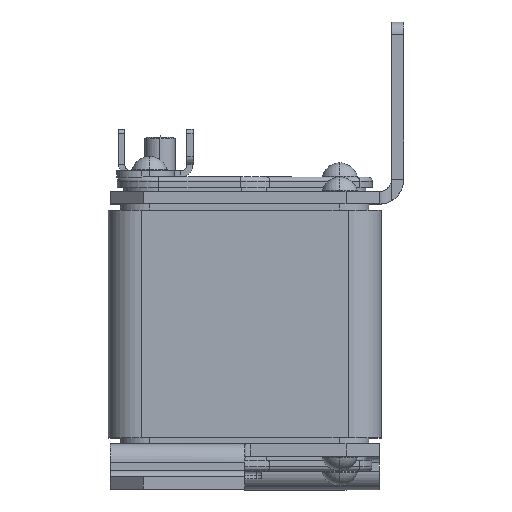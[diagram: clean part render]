
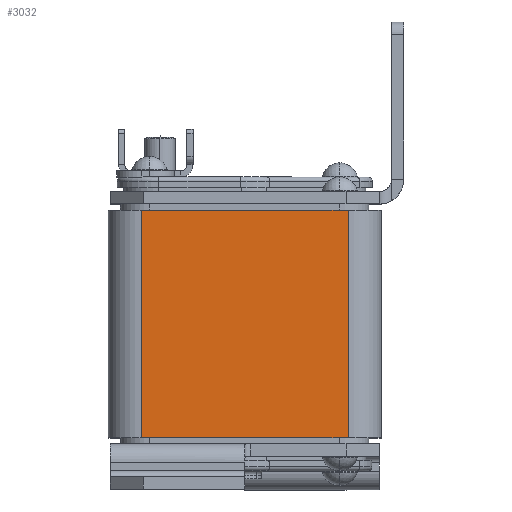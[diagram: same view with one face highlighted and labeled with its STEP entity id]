
A CAD part, top view. The second image highlights one B-rep face of the part: STEP entity #3032.
In plain terms, the highlighted planar face has unit normal (0, 0, 1).
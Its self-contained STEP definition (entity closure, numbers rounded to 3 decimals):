
#1928 = EDGE_CURVE ( 'NONE', #5104, #5201, #19952, .T. ) ;
#2189 = CARTESIAN_POINT ( 'NONE',  ( 25., -27.5, 33. ) ) ;
#3032 = ADVANCED_FACE ( 'NONE', ( #25289 ), #19410, .F. ) ;
#3592 = CARTESIAN_POINT ( 'NONE',  ( 25., -27.5, 33. ) ) ;
#4915 = DIRECTION ( 'NONE',  ( 0., 1., 0. ) ) ;
#5104 = VERTEX_POINT ( 'NONE', #23390 ) ;
#5201 = VERTEX_POINT ( 'NONE', #26272 ) ;
#5707 = ORIENTED_EDGE ( 'NONE', *, *, #12205, .T. ) ;
#5987 = VECTOR ( 'NONE', #4915, 1000. ) ;
#7877 = LINE ( 'NONE', #25109, #11841 ) ;
#11284 = VERTEX_POINT ( 'NONE', #20050 ) ;
#11841 = VECTOR ( 'NONE', #16055, 1000. ) ;
#12205 = EDGE_CURVE ( 'NONE', #11284, #5201, #17191, .T. ) ;
#12840 = DIRECTION ( 'NONE',  ( 0., 0., -1. ) ) ;
#15071 = DIRECTION ( 'NONE',  ( -1., 0., 0. ) ) ;
#16055 = DIRECTION ( 'NONE',  ( 0., 1., 0. ) ) ;
#16260 = EDGE_CURVE ( 'NONE', #18153, #11284, #7877, .T. ) ;
#16709 = ORIENTED_EDGE ( 'NONE', *, *, #18031, .F. ) ;
#17191 = LINE ( 'NONE', #28665, #21828 ) ;
#17440 = VECTOR ( 'NONE', #18202, 1000. ) ;
#18031 = EDGE_CURVE ( 'NONE', #18153, #5104, #18865, .T. ) ;
#18153 = VERTEX_POINT ( 'NONE', #26392 ) ;
#18202 = DIRECTION ( 'NONE',  ( -1., 0., 0. ) ) ;
#18325 = CARTESIAN_POINT ( 'NONE',  ( -25., -27.5, 33. ) ) ;
#18865 = LINE ( 'NONE', #2189, #17440 ) ;
#19410 = PLANE ( 'NONE',  #25000 ) ;
#19735 = ORIENTED_EDGE ( 'NONE', *, *, #1928, .F. ) ;
#19952 = LINE ( 'NONE', #18325, #5987 ) ;
#20050 = CARTESIAN_POINT ( 'NONE',  ( 25., 27.5, 33. ) ) ;
#21828 = VECTOR ( 'NONE', #15071, 1000. ) ;
#23390 = CARTESIAN_POINT ( 'NONE',  ( -25., -27.5, 33. ) ) ;
#25000 = AXIS2_PLACEMENT_3D ( 'NONE', #3592, #12840, #28626 ) ;
#25109 = CARTESIAN_POINT ( 'NONE',  ( 25., -27.5, 33. ) ) ;
#25289 = FACE_OUTER_BOUND ( 'NONE', #28983, .T. ) ;
#26272 = CARTESIAN_POINT ( 'NONE',  ( -25., 27.5, 33. ) ) ;
#26392 = CARTESIAN_POINT ( 'NONE',  ( 25., -27.5, 33. ) ) ;
#28626 = DIRECTION ( 'NONE',  ( 1., 0., 0. ) ) ;
#28665 = CARTESIAN_POINT ( 'NONE',  ( 25., 27.5, 33. ) ) ;
#28983 = EDGE_LOOP ( 'NONE', ( #5707, #19735, #16709, #29562 ) ) ;
#29562 = ORIENTED_EDGE ( 'NONE', *, *, #16260, .T. ) ;
